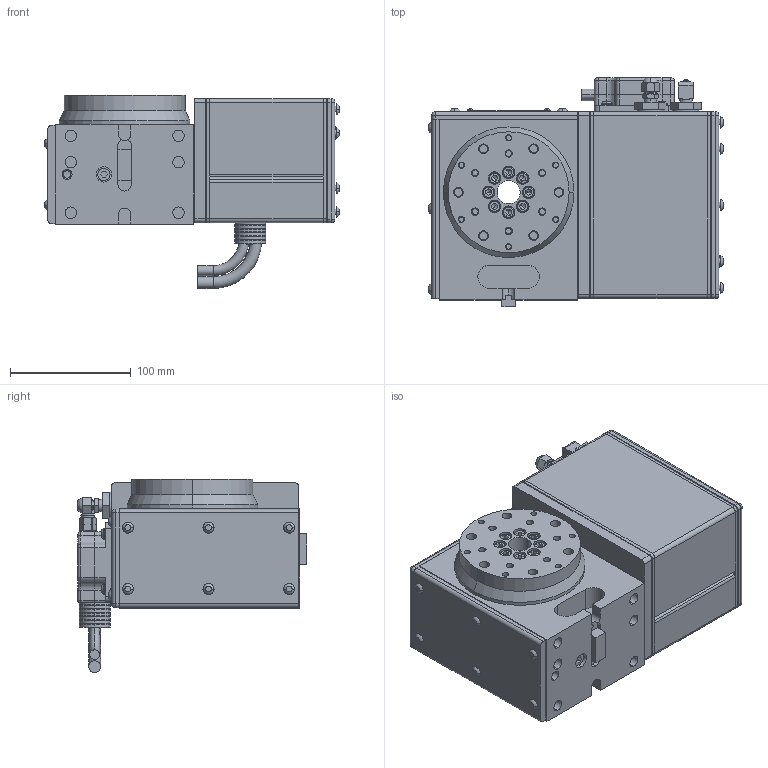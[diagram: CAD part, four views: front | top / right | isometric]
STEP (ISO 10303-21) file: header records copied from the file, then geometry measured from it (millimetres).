
FILE_DESCRIPTION (( 'STEP AP214' ), '1' );
FILE_NAME ('HRT100_STEP_11-2019.STEP', '2019-11-04T23:35:38', ( '' ), ( '' ), 'SwSTEP 2.0', 'SolidWorks 2019', '' );
FILE_SCHEMA (( 'AUTOMOTIVE_DESIGN' ));
Length unit declared in the file: inch
Products named in the file (3): Group1^10000106167_defeature; HRT100_STEP_11-2019; Group2^10000106167_defeature
Assembly tree (2 placements, depth 2):
  HRT100_STEP_11-2019
    Group1^10000106167_defeature
    Group2^10000106167_defeature
Bounding box: 243.47 x 189.56 x 159.51 mm (x, y, z)
Volume: 1938402.3 mm3; surface area: 380449.8 mm2
Topology: 2 solids, 3 shells, 2133 faces, 5190 edges, 3226 vertices
Faces by surface type: cylinder 883, plane 538, sphere 386, cone 157, bspline 85, torus 84
Entity records: 82078 total; most frequent: CARTESIAN_POINT 15847, DIRECTION 11218, ORIENTED_EDGE 10328, EDGE_CURVE 5164, AXIS2_PLACEMENT_3D 4655, VERTEX_POINT 3226, CIRCLE 2602, EDGE_LOOP 2352
